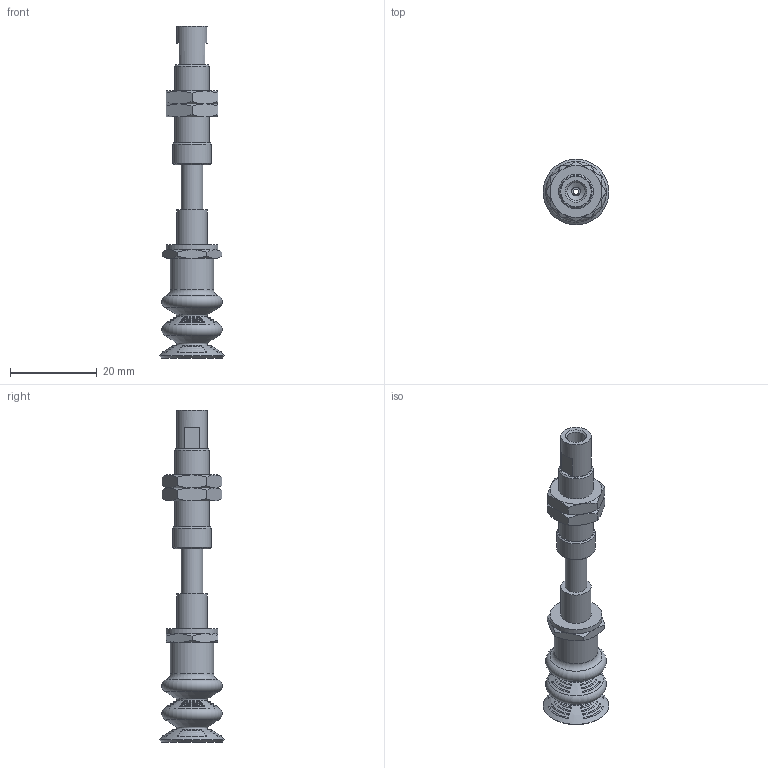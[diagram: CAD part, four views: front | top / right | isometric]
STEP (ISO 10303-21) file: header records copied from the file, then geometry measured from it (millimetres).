
FILE_DESCRIPTION(('STEP AP203'),'1');
FILE_NAME('-SPE.stp','2025-04-04T02:46:03',(' '),(' '),'Spatial InterOp 3D',' ',' ');
FILE_SCHEMA(('CONFIG_CONTROL_DESIGN'));
Length unit declared in the file: millimetre
Products named in the file (7): BNABPCTS-15-10-※-SPE; ZIG; BODY; NUT; BPCG-15-※; TN-PC-10-M5
Assembly tree (6 placements, depth 2):
  BNABPCTS-15-10-※-SPE
    ZIG
    BODY
    NUT
    NUT
    BPCG-15-※
    TN-PC-10-M5
Bounding box: 15.2 x 15.2 x 76.7 mm (x, y, z)
Volume: 4380.7 mm3; surface area: 5337.8 mm2
Topology: 6 solids, 6 shells, 212 faces, 643 edges, 417 vertices
Faces by surface type: sphere 58, cone 55, plane 43, torus 34, cylinder 22
Full cylindrical faces by diameter (mm): 1.25 x1, 2 x1, 4 x2, 4.2 x2, 5 x7, 5.2 x1, 7 x2, 7.25 x2, 8 x1, 9 x1, 10 x1, 12 x1
Entity records: 6291 total; most frequent: CARTESIAN_POINT 1572, DIRECTION 964, ORIENTED_EDGE 792, AXIS2_PLACEMENT_3D 469, EDGE_CURVE 396, EDGE_LOOP 310, VERTEX_POINT 282, CIRCLE 250
